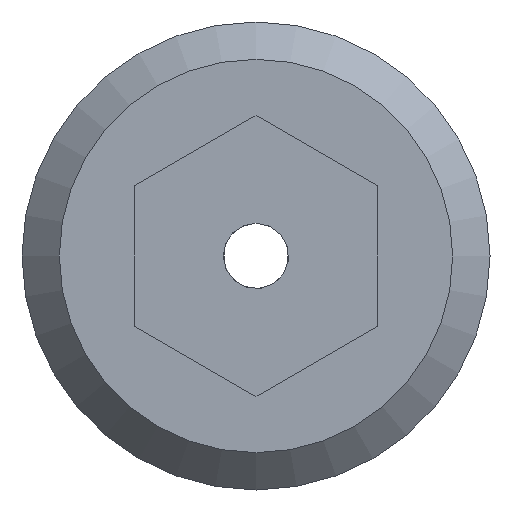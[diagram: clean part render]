
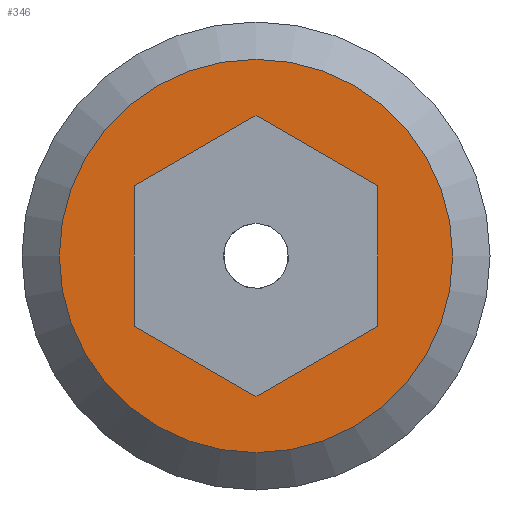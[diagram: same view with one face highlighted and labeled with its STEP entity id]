
A CAD part, front view. The second image highlights one B-rep face of the part: STEP entity #346.
In plain terms, the highlighted planar face has unit normal (0, -1, 0).
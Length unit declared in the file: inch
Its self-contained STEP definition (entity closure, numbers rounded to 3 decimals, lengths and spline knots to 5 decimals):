
#26=FACE_BOUND('',#89,.T.);
#43=CIRCLE('',#393,0.126);
#66=FACE_OUTER_BOUND('',#88,.T.);
#88=EDGE_LOOP('',(#293));
#89=EDGE_LOOP('',(#294,#295,#296,#297,#298,#299));
#95=LINE('',#524,#119);
#99=LINE('',#532,#123);
#102=LINE('',#538,#126);
#105=LINE('',#544,#129);
#108=LINE('',#550,#132);
#111=LINE('',#555,#135);
#119=VECTOR('',#412,0.3937);
#123=VECTOR('',#418,0.3937);
#126=VECTOR('',#423,0.3937);
#129=VECTOR('',#428,0.3937);
#132=VECTOR('',#433,0.3937);
#135=VECTOR('',#438,0.3937);
#143=VERTEX_POINT('',#522);
#144=VERTEX_POINT('',#523);
#147=VERTEX_POINT('',#531);
#149=VERTEX_POINT('',#537);
#151=VERTEX_POINT('',#543);
#153=VERTEX_POINT('',#549);
#168=VERTEX_POINT('',#593);
#177=EDGE_CURVE('',#143,#144,#95,.T.);
#181=EDGE_CURVE('',#147,#143,#99,.T.);
#184=EDGE_CURVE('',#149,#147,#102,.T.);
#187=EDGE_CURVE('',#151,#149,#105,.T.);
#190=EDGE_CURVE('',#153,#151,#108,.T.);
#193=EDGE_CURVE('',#144,#153,#111,.T.);
#211=EDGE_CURVE('',#168,#168,#43,.T.);
#293=ORIENTED_EDGE('',*,*,#211,.F.);
#294=ORIENTED_EDGE('',*,*,#177,.T.);
#295=ORIENTED_EDGE('',*,*,#193,.T.);
#296=ORIENTED_EDGE('',*,*,#190,.T.);
#297=ORIENTED_EDGE('',*,*,#187,.T.);
#298=ORIENTED_EDGE('',*,*,#184,.T.);
#299=ORIENTED_EDGE('',*,*,#181,.T.);
#330=PLANE('',#399);
#346=ADVANCED_FACE('',(#66,#26),#330,.T.);
#393=AXIS2_PLACEMENT_3D('',#594,#485,#486);
#399=AXIS2_PLACEMENT_3D('',#606,#499,#500);
#412=DIRECTION('',(0.866,0.,-0.5));
#418=DIRECTION('',(0.866,0.,0.5));
#423=DIRECTION('',(0.,0.,1.));
#428=DIRECTION('',(-0.866,0.,0.5));
#433=DIRECTION('',(-0.866,0.,-0.5));
#438=DIRECTION('',(0.,0.,-1.));
#485=DIRECTION('center_axis',(0.,1.,0.));
#486=DIRECTION('ref_axis',(0.,0.,1.));
#499=DIRECTION('center_axis',(0.,-1.,0.));
#500=DIRECTION('ref_axis',(0.,0.,-1.));
#522=CARTESIAN_POINT('',(0.,0.,0.09007));
#523=CARTESIAN_POINT('',(0.078,0.,0.04503));
#524=CARTESIAN_POINT('',(0.02405,0.,0.07618));
#531=CARTESIAN_POINT('',(-0.078,0.,0.04503));
#532=CARTESIAN_POINT('',(-0.06305,0.,0.05367));
#537=CARTESIAN_POINT('',(-0.078,0.,-0.04503));
#538=CARTESIAN_POINT('',(-0.078,0.,-0.03302));
#543=CARTESIAN_POINT('',(0.,0.,-0.09007));
#544=CARTESIAN_POINT('',(-0.01495,0.,-0.08143));
#549=CARTESIAN_POINT('',(0.078,0.,-0.04503));
#550=CARTESIAN_POINT('',(0.05395,0.,-0.05892));
#555=CARTESIAN_POINT('',(0.078,0.,0.01202));
#593=CARTESIAN_POINT('',(0.,0.,-0.126));
#594=CARTESIAN_POINT('Origin',(0.,0.,0.));
#606=CARTESIAN_POINT('Origin',(0.,0.,-0.021));
